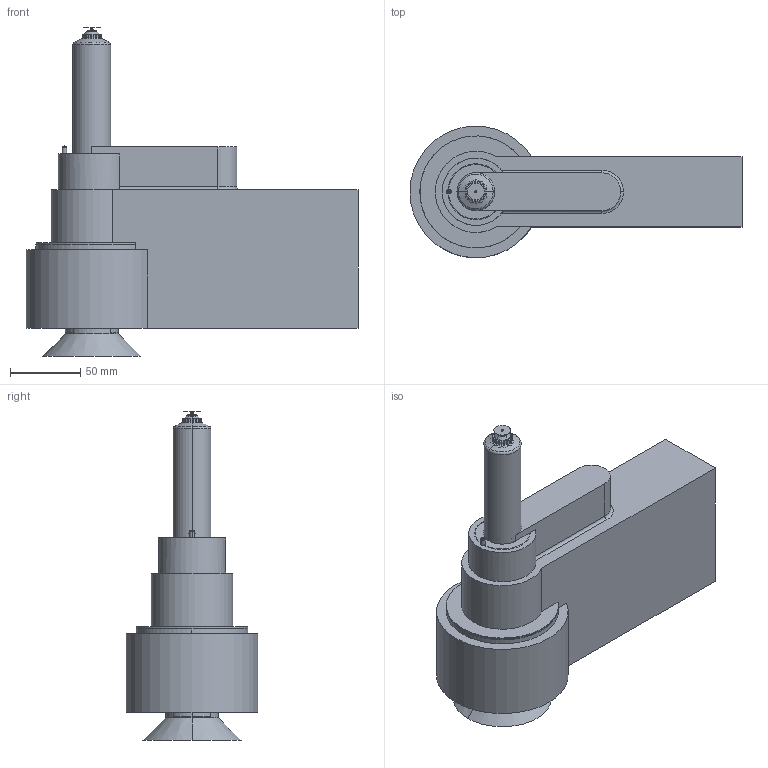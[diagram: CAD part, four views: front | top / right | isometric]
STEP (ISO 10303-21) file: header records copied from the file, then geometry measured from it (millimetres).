
FILE_DESCRIPTION (( 'STEP AP214' ), '1' );
FILE_NAME ('09SVP-03-090-VSW.STEP', '2023-01-05T08:27:40', ( '' ), ( '' ), 'SwSTEP 2.0', 'SolidWorks 2018', '' );
FILE_SCHEMA (( 'AUTOMOTIVE_DESIGN' ));
Length unit declared in the file: millimetre
Products named in the file (9): DIN6325_04m6x12; DIN7984_M05x040; DIN912_M05x006; 09SVP-03-090-VSW; DIN914_DIN914-M3x5-45H; nozzle_09SVP-03-090-VSW; DIN915_M05x10; DIN912_M03x014; cutout_09SVP-03-090-VSW
Assembly tree (16 placements, depth 2):
  09SVP-03-090-VSW
    DIN6325_04m6x12
    DIN7984_M05x040  x4
    DIN912_M03x014  x4
    DIN915_M05x10
    DIN912_M05x006  x2
    DIN914_DIN914-M3x5-45H  x2
    nozzle_09SVP-03-090-VSW
    cutout_09SVP-03-090-VSW
Bounding box: 237 x 93.98 x 234.6 mm (x, y, z)
Volume: 1476526.8 mm3; surface area: 191313.5 mm2
Topology: 15 solids, 25 shells, 1280 faces, 3210 edges, 2047 vertices
Faces by surface type: plane 566, cylinder 362, cone 181, bspline 84, torus 81, sphere 6
Entity records: 45393 total; most frequent: CARTESIAN_POINT 16741, ORIENTED_EDGE 5794, DIRECTION 5580, EDGE_CURVE 2898, AXIS2_PLACEMENT_3D 2026, VERTEX_POINT 1859, LINE 1528, VECTOR 1528
